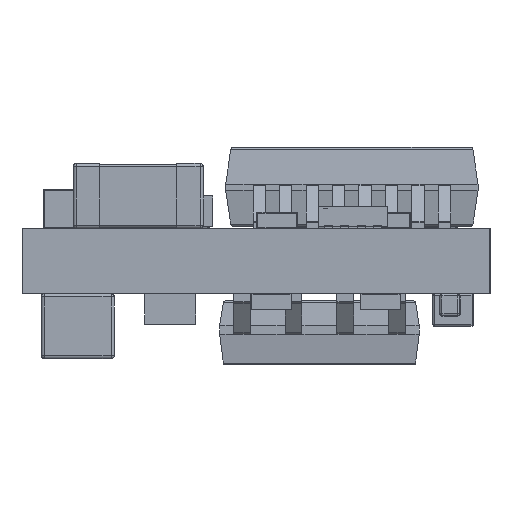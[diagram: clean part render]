
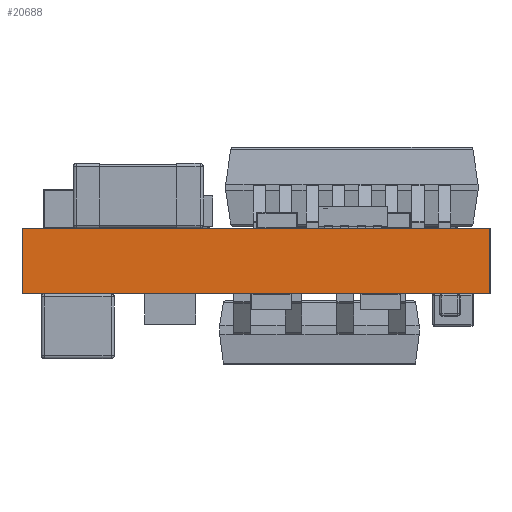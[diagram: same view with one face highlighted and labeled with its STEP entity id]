
A CAD part, left-side view. The second image highlights one B-rep face of the part: STEP entity #20688.
In plain terms, the highlighted planar face has unit normal (-1, 0, 0).
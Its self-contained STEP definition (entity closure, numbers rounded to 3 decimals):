
#1188=FACE_OUTER_BOUND('',#2361,.T.);
#2361=EDGE_LOOP('',(#13233,#13234,#13235,#13236));
#3814=LINE('',#30056,#6111);
#3815=LINE('',#30059,#6112);
#3816=LINE('',#30061,#6113);
#3817=LINE('',#30062,#6114);
#6111=VECTOR('',#24128,10.);
#6112=VECTOR('',#24131,10.);
#6113=VECTOR('',#24132,10.);
#6114=VECTOR('',#24133,10.);
#8294=VERTEX_POINT('',#30052);
#8295=VERTEX_POINT('',#30054);
#8296=VERTEX_POINT('',#30058);
#8297=VERTEX_POINT('',#30060);
#10222=EDGE_CURVE('',#8294,#8295,#3814,.T.);
#10223=EDGE_CURVE('',#8294,#8296,#3815,.T.);
#10224=EDGE_CURVE('',#8297,#8295,#3816,.T.);
#10225=EDGE_CURVE('',#8296,#8297,#3817,.T.);
#13233=ORIENTED_EDGE('',*,*,#10223,.F.);
#13234=ORIENTED_EDGE('',*,*,#10222,.T.);
#13235=ORIENTED_EDGE('',*,*,#10224,.F.);
#13236=ORIENTED_EDGE('',*,*,#10225,.F.);
#18685=PLANE('',#21913);
#20688=ADVANCED_FACE('',(#1188),#18685,.T.);
#21913=AXIS2_PLACEMENT_3D('',#30057,#24129,#24130);
#24128=DIRECTION('',(0.,0.,-1.));
#24129=DIRECTION('center_axis',(-1.,0.,0.));
#24130=DIRECTION('ref_axis',(0.,1.,0.));
#24131=DIRECTION('',(0.,-1.,0.));
#24132=DIRECTION('',(0.,1.,0.));
#24133=DIRECTION('',(0.,0.,-1.));
#30052=CARTESIAN_POINT('',(0.,11.5,0.));
#30054=CARTESIAN_POINT('',(0.,11.5,-1.6));
#30056=CARTESIAN_POINT('',(0.,11.5,0.));
#30057=CARTESIAN_POINT('Origin',(0.,0.,0.));
#30058=CARTESIAN_POINT('',(0.,0.,0.));
#30059=CARTESIAN_POINT('',(0.,11.5,0.));
#30060=CARTESIAN_POINT('',(0.,0.,-1.6));
#30061=CARTESIAN_POINT('',(0.,11.5,-1.6));
#30062=CARTESIAN_POINT('',(0.,0.,0.));
